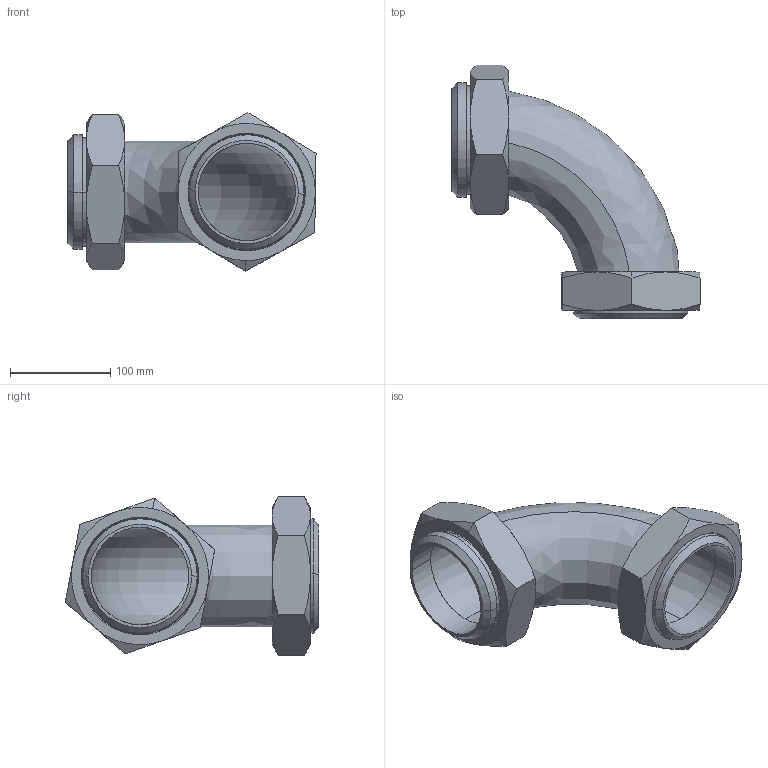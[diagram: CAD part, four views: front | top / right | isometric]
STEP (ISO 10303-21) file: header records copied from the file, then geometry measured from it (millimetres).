
FILE_DESCRIPTION (( 'STEP AP214' ), '1' );
FILE_NAME ('2E 4.0.STEP', '2025-08-26T20:12:21', ( '' ), ( '' ), 'SwSTEP 2.0', 'SolidWorks 2023', '' );
FILE_SCHEMA (( 'AUTOMOTIVE_DESIGN' ));
Length unit declared in the file: millimetre
Products named in the file (4): 2E 4.0; 13H4.0; 14PR 4.0 REV2; 2WCL4.0
Assembly tree (5 placements, depth 2):
  2E 4.0
    13H4.0  x2
    2WCL4.0
    14PR 4.0 REV2  x2
Bounding box: 247.78 x 253.29 x 158.36 mm (x, y, z)
Volume: 678114.1 mm3; surface area: 297039.4 mm2
Topology: 5 solids, 5 shells, 144 faces, 336 edges, 208 vertices
Faces by surface type: cylinder 58, cone 44, plane 32, bspline 10
Entity records: 15296 total; most frequent: CARTESIAN_POINT 13608, ORIENTED_EDGE 348, DIRECTION 307, EDGE_CURVE 174, AXIS2_PLACEMENT_3D 127, VERTEX_POINT 108, EDGE_LOOP 84, FACE_OUTER_BOUND 75
